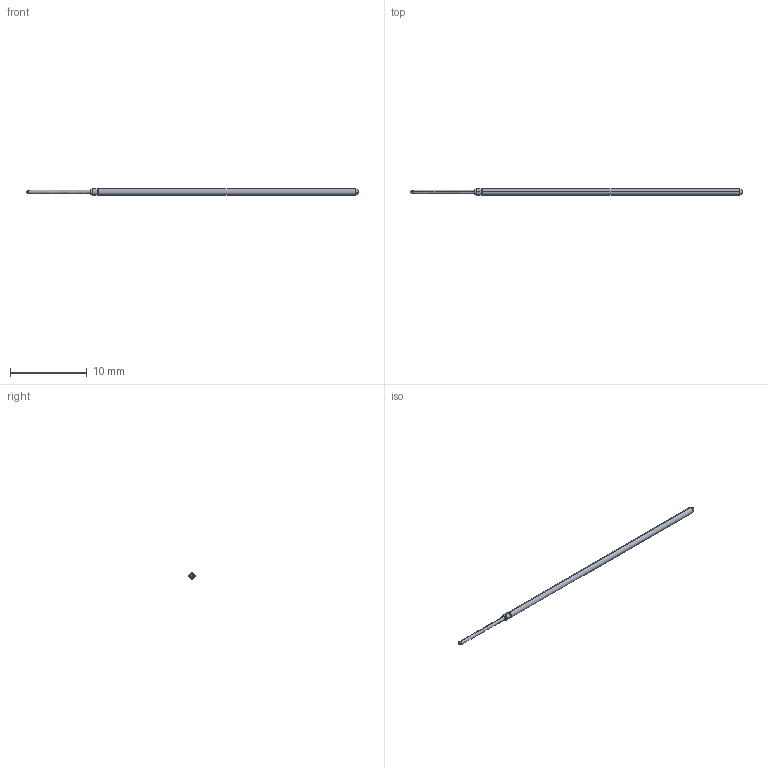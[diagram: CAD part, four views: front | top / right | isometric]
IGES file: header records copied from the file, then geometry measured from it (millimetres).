
Start section: SolidWorks IGES file using analytic representation for surfaces
Global section: file name: \\CODA-VM-SBS\RedirectedFolders\georged\My Documents\CODA FILES NEW\ATE TEST PROBES\LPC1 & ST-LPC1 SERIES\LF-LPC1I8.IGS; native system: SolidWorks 2022; preprocessor: SolidWorks 2022; author: GeorgeD; date: 230516.094801; units: inch
Bounding box: 43.18 x 0.79 x 0.79 mm (x, y, z)
Surface area: 99.8 mm2 (no closed solid volume)
Topology: 0 solids, 0 shells, 27 faces, 182 edges, 182 vertices
Faces by surface type: bspline 27
